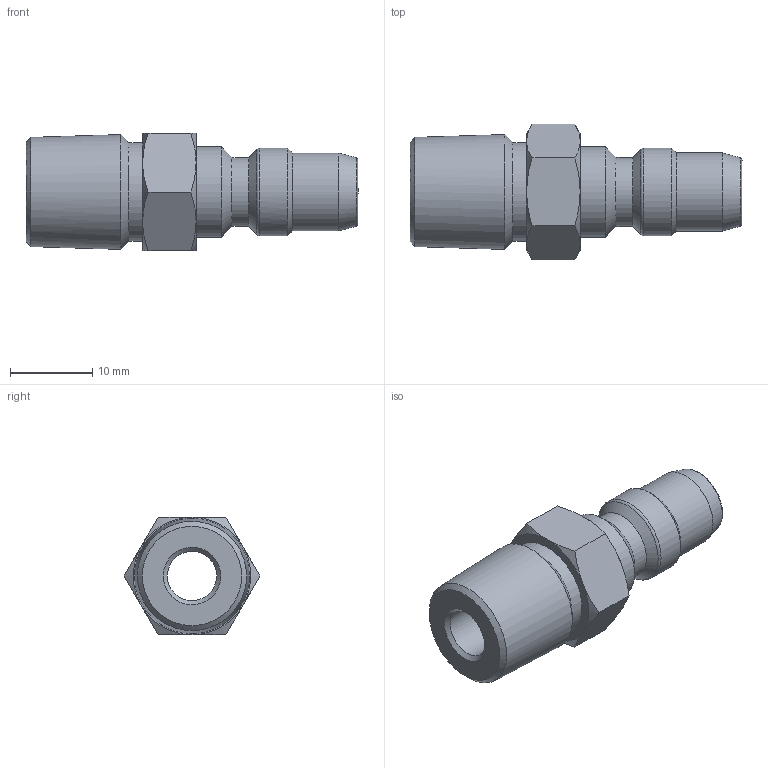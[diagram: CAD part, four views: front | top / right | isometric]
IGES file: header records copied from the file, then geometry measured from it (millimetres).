
Global section: file name: SFQC2P-M4N; native system: Autodesk Inventor 2016; preprocessor: unknown; author: 이승민,,11,0; organization: 20170206.082734; date: 20170208.203131; units: millimetre
Bounding box: 40.4 x 16.51 x 14.3 mm (x, y, z)
Volume: 3486.4 mm3; surface area: 2582 mm2
Topology: 1 solids, 1 shells, 39 faces, 102 edges, 67 vertices
Faces by surface type: bspline 39
